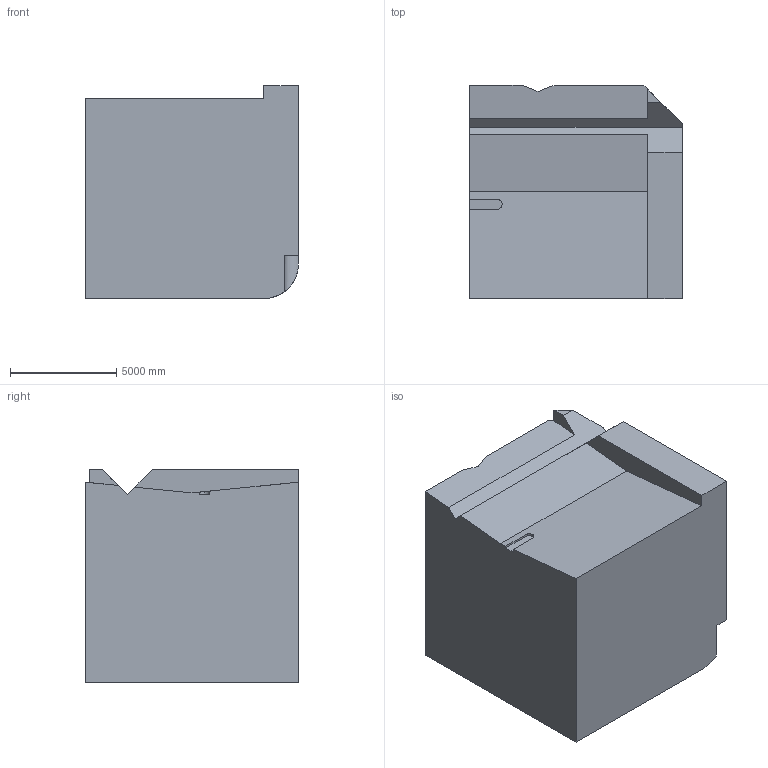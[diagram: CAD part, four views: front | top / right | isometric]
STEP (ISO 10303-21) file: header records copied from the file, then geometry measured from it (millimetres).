
FILE_DESCRIPTION (( 'STEP AP203' ), '1' );
FILE_NAME ('70.STEP', '2022-09-02T13:59:59', ( 'user' ), ( '' ), 'SwSTEP 2.0', 'SolidWorks 2021', '' );
FILE_SCHEMA (( 'CONFIG_CONTROL_DESIGN' ));
Length unit declared in the file: centimetre
Products named in the file (1): 70
Bounding box: 10000 x 10000 x 10000 mm (x, y, z)
Volume: 902231577520 mm3; surface area: 571308382 mm2
Topology: 1 solids, 1 shells, 26 faces, 72 edges, 48 vertices
Faces by surface type: plane 22, cylinder 4
Entity records: 976 total; most frequent: CARTESIAN_POINT 237, ORIENTED_EDGE 144, DIRECTION 126, EDGE_CURVE 72, LINE 64, VECTOR 64, VERTEX_POINT 48, AXIS2_PLACEMENT_3D 31
